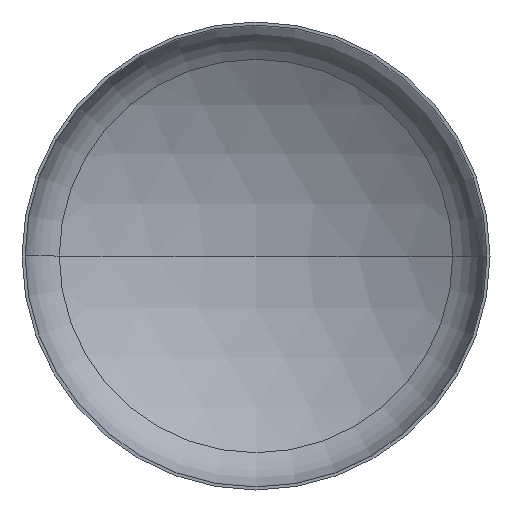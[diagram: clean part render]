
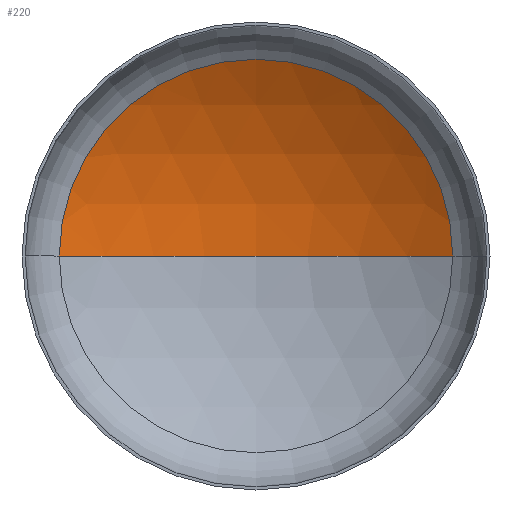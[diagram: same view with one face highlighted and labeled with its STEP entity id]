
A CAD part, front view. The second image highlights one B-rep face of the part: STEP entity #220.
In plain terms, the highlighted spherical face has radius 6000 mm.
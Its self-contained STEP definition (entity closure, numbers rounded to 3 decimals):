
#7 = DIRECTION ( 'NONE',  ( 0., 0., -1. ) ) ;
#9 = ORIENTED_EDGE ( 'NONE', *, *, #334, .T. ) ;
#18 = ORIENTED_EDGE ( 'NONE', *, *, #251, .T. ) ;
#29 = VERTEX_POINT ( 'NONE', #188 ) ;
#36 = DIRECTION ( 'NONE',  ( 0., -1., 0. ) ) ;
#37 = CARTESIAN_POINT ( 'NONE',  ( 0., -3972.124, 0. ) ) ;
#40 = DIRECTION ( 'NONE',  ( 0., 0., 1. ) ) ;
#42 = CARTESIAN_POINT ( 'NONE',  ( -3152.941, 1132.674, 0. ) ) ;
#43 = DIRECTION ( 'NONE',  ( 1., 0., 0. ) ) ;
#53 = CIRCLE ( 'NONE', #148, 6000. ) ;
#56 = CARTESIAN_POINT ( 'NONE',  ( 3152.941, 1132.674, 0. ) ) ;
#58 = EDGE_LOOP ( 'NONE', ( #154, #18, #9 ) ) ;
#63 = SPHERICAL_SURFACE ( 'NONE', #103, 6000. ) ;
#79 = DIRECTION ( 'NONE',  ( 0., 0., -1. ) ) ;
#82 = DIRECTION ( 'NONE',  ( -1., 0., 0. ) ) ;
#83 = AXIS2_PLACEMENT_3D ( 'NONE', #37, #40, #43 ) ;
#84 = CARTESIAN_POINT ( 'NONE',  ( 0., -3972.124, 0. ) ) ;
#95 = DIRECTION ( 'NONE',  ( -1., 0., 0. ) ) ;
#103 = AXIS2_PLACEMENT_3D ( 'NONE', #173, #7, #95 ) ;
#148 = AXIS2_PLACEMENT_3D ( 'NONE', #84, #79, #82 ) ;
#150 = CIRCLE ( 'NONE', #83, 6000. ) ;
#154 = ORIENTED_EDGE ( 'NONE', *, *, #234, .F. ) ;
#156 = FACE_OUTER_BOUND ( 'NONE', #58, .T. ) ;
#173 = CARTESIAN_POINT ( 'NONE',  ( 0., -3972.124, 0. ) ) ;
#188 = CARTESIAN_POINT ( 'NONE',  ( 0., 2027.876, 0. ) ) ;
#208 = CIRCLE ( 'NONE', #259, 3152.941 ) ;
#220 = ADVANCED_FACE ( 'NONE', ( #156 ), #63, .F. ) ;
#225 = CARTESIAN_POINT ( 'NONE',  ( 0., 1132.674, 0. ) ) ;
#234 = EDGE_CURVE ( 'NONE', #29, #409, #150, .T. ) ;
#251 = EDGE_CURVE ( 'NONE', #29, #284, #53, .T. ) ;
#253 = DIRECTION ( 'NONE',  ( 1., 0., 0. ) ) ;
#259 = AXIS2_PLACEMENT_3D ( 'NONE', #225, #36, #253 ) ;
#284 = VERTEX_POINT ( 'NONE', #56 ) ;
#334 = EDGE_CURVE ( 'NONE', #284, #409, #208, .T. ) ;
#409 = VERTEX_POINT ( 'NONE', #42 ) ;
